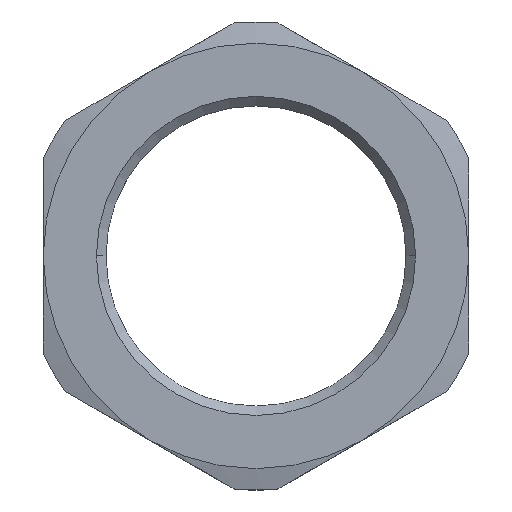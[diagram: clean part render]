
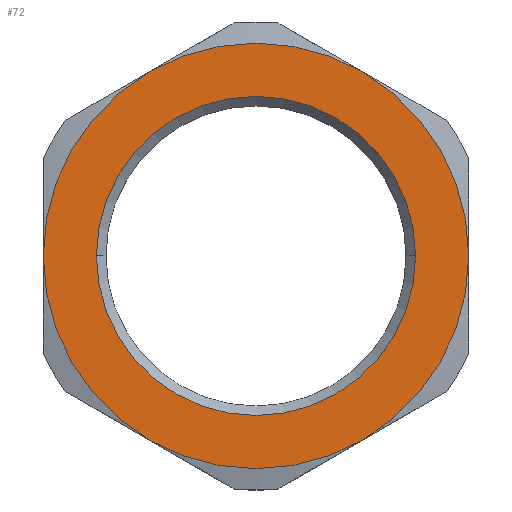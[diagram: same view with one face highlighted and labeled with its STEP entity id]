
A CAD part, top view. The second image highlights one B-rep face of the part: STEP entity #72.
In plain terms, the highlighted planar face has unit normal (0, 0, 1).
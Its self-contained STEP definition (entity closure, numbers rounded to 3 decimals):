
#60 = EDGE_CURVE ( 'NONE', #88, #100, #951, .T. ) ;
#61 = ORIENTED_EDGE ( 'NONE', *, *, #62, .T. ) ;
#62 = EDGE_CURVE ( 'NONE', #100, #63, #946, .T. ) ;
#63 = VERTEX_POINT ( 'NONE', #941 ) ;
#64 = ORIENTED_EDGE ( 'NONE', *, *, #65, .T. ) ;
#65 = EDGE_CURVE ( 'NONE', #63, #152, #940, .T. ) ;
#66 = EDGE_LOOP ( 'NONE', ( #67, #69 ) ) ;
#67 = ORIENTED_EDGE ( 'NONE', *, *, #68, .F. ) ;
#68 = EDGE_CURVE ( 'NONE', #141, #168, #935, .T. ) ;
#69 = ORIENTED_EDGE ( 'NONE', *, *, #140, .F. ) ;
#72 = ADVANCED_FACE ( 'NONE', ( #917, #916 ), #915, .F. ) ;
#73 = ORIENTED_EDGE ( 'NONE', *, *, #74, .T. ) ;
#74 = EDGE_CURVE ( 'NONE', #152, #75, #910, .T. ) ;
#75 = VERTEX_POINT ( 'NONE', #904 ) ;
#85 = ORIENTED_EDGE ( 'NONE', *, *, #86, .T. ) ;
#86 = EDGE_CURVE ( 'NONE', #75, #87, #889, .T. ) ;
#87 = VERTEX_POINT ( 'NONE', #890 ) ;
#88 = VERTEX_POINT ( 'NONE', #884 ) ;
#91 = EDGE_LOOP ( 'NONE', ( #73, #85, #97, #99, #61, #64 ) ) ;
#97 = ORIENTED_EDGE ( 'NONE', *, *, #98, .T. ) ;
#98 = EDGE_CURVE ( 'NONE', #87, #88, #873, .T. ) ;
#99 = ORIENTED_EDGE ( 'NONE', *, *, #60, .T. ) ;
#100 = VERTEX_POINT ( 'NONE', #868 ) ;
#140 = EDGE_CURVE ( 'NONE', #168, #141, #788, .T. ) ;
#141 = VERTEX_POINT ( 'NONE', #783 ) ;
#152 = VERTEX_POINT ( 'NONE', #1046 ) ;
#168 = VERTEX_POINT ( 'NONE', #1014 ) ;
#783 = CARTESIAN_POINT ( 'NONE',  ( 11.25, 0., 0. ) ) ;
#784 = DIRECTION ( 'NONE',  ( 1., 0., 0. ) ) ;
#785 = DIRECTION ( 'NONE',  ( 0., 0., 1. ) ) ;
#786 = CARTESIAN_POINT ( 'NONE',  ( 0., 0., 0. ) ) ;
#787 = AXIS2_PLACEMENT_3D ( 'NONE', #786, #785, #784 ) ;
#788 = CIRCLE ( 'NONE', #787, 11.25 ) ;
#868 = CARTESIAN_POINT ( 'NONE',  ( -7.5, -12.99, 0. ) ) ;
#869 = DIRECTION ( 'NONE',  ( 1., 0., 0. ) ) ;
#870 = DIRECTION ( 'NONE',  ( 0., 0., 1. ) ) ;
#871 = CARTESIAN_POINT ( 'NONE',  ( 0., 0., 0. ) ) ;
#872 = AXIS2_PLACEMENT_3D ( 'NONE', #871, #870, #869 ) ;
#873 = CIRCLE ( 'NONE', #872, 15. ) ;
#884 = CARTESIAN_POINT ( 'NONE',  ( -15., 0., 0. ) ) ;
#885 = DIRECTION ( 'NONE',  ( 1., 0., 0. ) ) ;
#886 = DIRECTION ( 'NONE',  ( 0., 0., 1. ) ) ;
#887 = CARTESIAN_POINT ( 'NONE',  ( 0., 0., 0. ) ) ;
#888 = AXIS2_PLACEMENT_3D ( 'NONE', #887, #886, #885 ) ;
#889 = CIRCLE ( 'NONE', #888, 15. ) ;
#890 = CARTESIAN_POINT ( 'NONE',  ( -7.5, 12.99, 0. ) ) ;
#904 = CARTESIAN_POINT ( 'NONE',  ( 7.5, 12.99, 0. ) ) ;
#905 = DIRECTION ( 'NONE',  ( 1., 0., 0. ) ) ;
#907 = DIRECTION ( 'NONE',  ( 0., 0., 1. ) ) ;
#908 = CARTESIAN_POINT ( 'NONE',  ( 0., 0., 0. ) ) ;
#909 = AXIS2_PLACEMENT_3D ( 'NONE', #908, #907, #905 ) ;
#910 = CIRCLE ( 'NONE', #909, 15. ) ;
#911 = DIRECTION ( 'NONE',  ( -1., 0., 0. ) ) ;
#912 = DIRECTION ( 'NONE',  ( 0., 0., -1. ) ) ;
#913 = CARTESIAN_POINT ( 'NONE',  ( 0., 0., 0. ) ) ;
#914 = AXIS2_PLACEMENT_3D ( 'NONE', #913, #912, #911 ) ;
#915 = PLANE ( 'NONE',  #914 ) ;
#916 = FACE_BOUND ( 'NONE', #66, .T. ) ;
#917 = FACE_OUTER_BOUND ( 'NONE', #91, .T. ) ;
#923 = DIRECTION ( 'NONE',  ( 1., 0., 0. ) ) ;
#924 = DIRECTION ( 'NONE',  ( 0., 0., 1. ) ) ;
#925 = CARTESIAN_POINT ( 'NONE',  ( 0., 0., 0. ) ) ;
#934 = AXIS2_PLACEMENT_3D ( 'NONE', #925, #924, #923 ) ;
#935 = CIRCLE ( 'NONE', #934, 11.25 ) ;
#936 = DIRECTION ( 'NONE',  ( 1., 0., 0. ) ) ;
#937 = DIRECTION ( 'NONE',  ( 0., 0., 1. ) ) ;
#938 = CARTESIAN_POINT ( 'NONE',  ( 0., 0., 0. ) ) ;
#939 = AXIS2_PLACEMENT_3D ( 'NONE', #938, #937, #936 ) ;
#940 = CIRCLE ( 'NONE', #939, 15. ) ;
#941 = CARTESIAN_POINT ( 'NONE',  ( 7.5, -12.99, 0. ) ) ;
#942 = DIRECTION ( 'NONE',  ( 1., 0., 0. ) ) ;
#943 = DIRECTION ( 'NONE',  ( 0., 0., 1. ) ) ;
#944 = CARTESIAN_POINT ( 'NONE',  ( 0., 0., 0. ) ) ;
#945 = AXIS2_PLACEMENT_3D ( 'NONE', #944, #943, #942 ) ;
#946 = CIRCLE ( 'NONE', #945, 15. ) ;
#947 = DIRECTION ( 'NONE',  ( 1., 0., 0. ) ) ;
#948 = DIRECTION ( 'NONE',  ( 0., 0., 1. ) ) ;
#949 = CARTESIAN_POINT ( 'NONE',  ( 0., 0., 0. ) ) ;
#950 = AXIS2_PLACEMENT_3D ( 'NONE', #949, #948, #947 ) ;
#951 = CIRCLE ( 'NONE', #950, 15. ) ;
#1014 = CARTESIAN_POINT ( 'NONE',  ( -11.25, 0., 0. ) ) ;
#1046 = CARTESIAN_POINT ( 'NONE',  ( 15., 0., 0. ) ) ;
